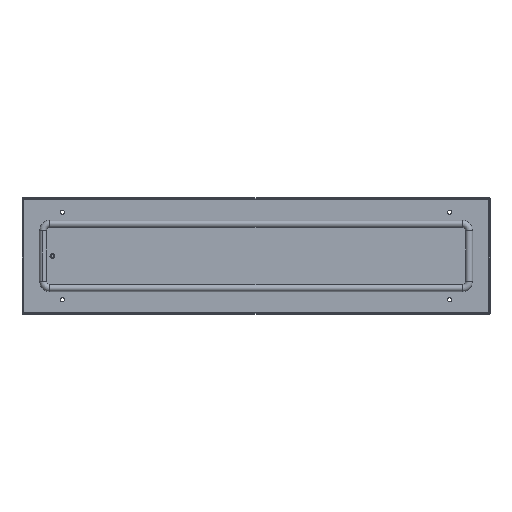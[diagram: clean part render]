
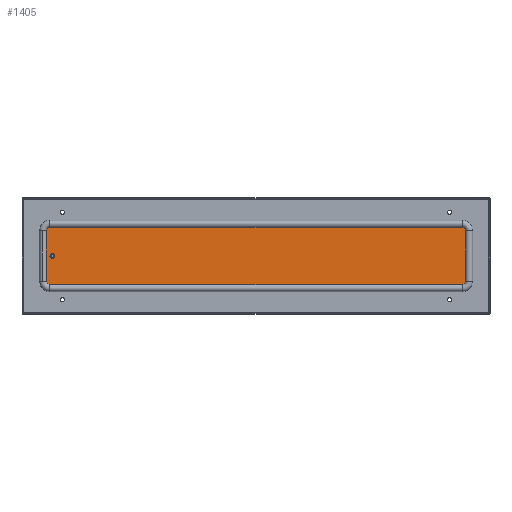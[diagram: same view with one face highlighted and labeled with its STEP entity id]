
A CAD part, top view. The second image highlights one B-rep face of the part: STEP entity #1405.
In plain terms, the highlighted planar face has unit normal (0, 0, 1).
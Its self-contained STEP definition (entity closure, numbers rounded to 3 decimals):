
#91 = VECTOR ( 'NONE', #627, 1000. ) ;
#95 = EDGE_CURVE ( 'NONE', #1627, #1391, #857, .T. ) ;
#112 = ORIENTED_EDGE ( 'NONE', *, *, #95, .F. ) ;
#115 = DIRECTION ( 'NONE',  ( 0., -1., 0. ) ) ;
#130 = DIRECTION ( 'NONE',  ( 0., 0., -1. ) ) ;
#138 = DIRECTION ( 'NONE',  ( -1., 0., 0. ) ) ;
#181 = CIRCLE ( 'NONE', #1341, 6. ) ;
#187 = FACE_OUTER_BOUND ( 'NONE', #898, .T. ) ;
#189 = CARTESIAN_POINT ( 'NONE',  ( 349.5, -48.5, -10.75 ) ) ;
#197 = VERTEX_POINT ( 'NONE', #457 ) ;
#214 = LINE ( 'NONE', #683, #1397 ) ;
#227 = CARTESIAN_POINT ( 'NONE',  ( 355.5, 42.5, -10.75 ) ) ;
#243 = AXIS2_PLACEMENT_3D ( 'NONE', #460, #1406, #575 ) ;
#260 = CARTESIAN_POINT ( 'NONE',  ( -349.5, 48.5, -10.75 ) ) ;
#263 = CARTESIAN_POINT ( 'NONE',  ( 355.5, 42.5, -10.75 ) ) ;
#277 = DIRECTION ( 'NONE',  ( 0., 0., 1. ) ) ;
#296 = DIRECTION ( 'NONE',  ( -1., 0., 0. ) ) ;
#328 = ORIENTED_EDGE ( 'NONE', *, *, #433, .F. ) ;
#388 = DIRECTION ( 'NONE',  ( 0., 1., 0. ) ) ;
#433 = EDGE_CURVE ( 'NONE', #1158, #1368, #181, .T. ) ;
#456 = CARTESIAN_POINT ( 'NONE',  ( -349.5, 0., -10.75 ) ) ;
#457 = CARTESIAN_POINT ( 'NONE',  ( -355.5, -42.5, -10.75 ) ) ;
#460 = CARTESIAN_POINT ( 'NONE',  ( -349.5, 42.5, -10.75 ) ) ;
#464 = EDGE_CURVE ( 'NONE', #1391, #1158, #1413, .T. ) ;
#467 = DIRECTION ( 'NONE',  ( 0., 0., 1. ) ) ;
#482 = VECTOR ( 'NONE', #388, 1000. ) ;
#498 = PLANE ( 'NONE',  #1263 ) ;
#575 = DIRECTION ( 'NONE',  ( -1., 0., 0. ) ) ;
#576 = ORIENTED_EDGE ( 'NONE', *, *, #1522, .F. ) ;
#578 = AXIS2_PLACEMENT_3D ( 'NONE', #1479, #277, #138 ) ;
#592 = CIRCLE ( 'NONE', #1496, 6. ) ;
#597 = EDGE_CURVE ( 'NONE', #1408, #1333, #1655, .T. ) ;
#611 = ORIENTED_EDGE ( 'NONE', *, *, #464, .F. ) ;
#627 = DIRECTION ( 'NONE',  ( 1., 0., 0. ) ) ;
#683 = CARTESIAN_POINT ( 'NONE',  ( 349.5, -48.5, -10.75 ) ) ;
#724 = EDGE_CURVE ( 'NONE', #1322, #1278, #214, .T. ) ;
#749 = CARTESIAN_POINT ( 'NONE',  ( -349.5, -42.5, -10.75 ) ) ;
#757 = EDGE_CURVE ( 'NONE', #1333, #1408, #1245, .T. ) ;
#857 = CIRCLE ( 'NONE', #243, 6. ) ;
#860 = CARTESIAN_POINT ( 'NONE',  ( -349.5, -48.5, -10.75 ) ) ;
#898 = EDGE_LOOP ( 'NONE', ( #112, #1366, #576, #1665, #1033, #998, #328, #611 ) ) ;
#945 = EDGE_CURVE ( 'NONE', #197, #1627, #1446, .T. ) ;
#998 = ORIENTED_EDGE ( 'NONE', *, *, #1652, .F. ) ;
#1020 = CARTESIAN_POINT ( 'NONE',  ( -345.5, 0., -10.75 ) ) ;
#1022 = DIRECTION ( 'NONE',  ( 0., 0., -1. ) ) ;
#1028 = AXIS2_PLACEMENT_3D ( 'NONE', #1063, #130, #1629 ) ;
#1032 = ORIENTED_EDGE ( 'NONE', *, *, #597, .F. ) ;
#1033 = ORIENTED_EDGE ( 'NONE', *, *, #1725, .F. ) ;
#1063 = CARTESIAN_POINT ( 'NONE',  ( 349.5, -42.5, -10.75 ) ) ;
#1073 = ORIENTED_EDGE ( 'NONE', *, *, #757, .F. ) ;
#1158 = VERTEX_POINT ( 'NONE', #1530 ) ;
#1159 = DIRECTION ( 'NONE',  ( -1., 0., 0. ) ) ;
#1176 = CARTESIAN_POINT ( 'NONE',  ( 0., 0., -10.75 ) ) ;
#1185 = EDGE_LOOP ( 'NONE', ( #1073, #1032 ) ) ;
#1240 = LINE ( 'NONE', #263, #1716 ) ;
#1245 = CIRCLE ( 'NONE', #1552, 4. ) ;
#1263 = AXIS2_PLACEMENT_3D ( 'NONE', #1176, #1022, #1159 ) ;
#1275 = DIRECTION ( 'NONE',  ( -1., 0., 0. ) ) ;
#1278 = VERTEX_POINT ( 'NONE', #860 ) ;
#1286 = DIRECTION ( 'NONE',  ( 0., 0., -1. ) ) ;
#1289 = FACE_BOUND ( 'NONE', #1185, .T. ) ;
#1322 = VERTEX_POINT ( 'NONE', #189 ) ;
#1333 = VERTEX_POINT ( 'NONE', #456 ) ;
#1338 = DIRECTION ( 'NONE',  ( 0., 0., -1. ) ) ;
#1341 = AXIS2_PLACEMENT_3D ( 'NONE', #1743, #1338, #1729 ) ;
#1366 = ORIENTED_EDGE ( 'NONE', *, *, #945, .F. ) ;
#1368 = VERTEX_POINT ( 'NONE', #227 ) ;
#1369 = VERTEX_POINT ( 'NONE', #1683 ) ;
#1391 = VERTEX_POINT ( 'NONE', #1721 ) ;
#1397 = VECTOR ( 'NONE', #296, 1000. ) ;
#1405 = ADVANCED_FACE ( 'NONE', ( #1289, #187 ), #498, .F. ) ;
#1406 = DIRECTION ( 'NONE',  ( 0., 0., -1. ) ) ;
#1408 = VERTEX_POINT ( 'NONE', #1460 ) ;
#1413 = LINE ( 'NONE', #260, #91 ) ;
#1446 = LINE ( 'NONE', #1451, #482 ) ;
#1450 = DIRECTION ( 'NONE',  ( 0., -1., 0. ) ) ;
#1451 = CARTESIAN_POINT ( 'NONE',  ( -355.5, -42.5, -10.75 ) ) ;
#1460 = CARTESIAN_POINT ( 'NONE',  ( -341.5, 0., -10.75 ) ) ;
#1479 = CARTESIAN_POINT ( 'NONE',  ( -345.5, 0., -10.75 ) ) ;
#1496 = AXIS2_PLACEMENT_3D ( 'NONE', #749, #1286, #1450 ) ;
#1522 = EDGE_CURVE ( 'NONE', #1278, #197, #592, .T. ) ;
#1530 = CARTESIAN_POINT ( 'NONE',  ( 349.5, 48.5, -10.75 ) ) ;
#1552 = AXIS2_PLACEMENT_3D ( 'NONE', #1020, #467, #1275 ) ;
#1569 = CARTESIAN_POINT ( 'NONE',  ( -355.5, 42.5, -10.75 ) ) ;
#1627 = VERTEX_POINT ( 'NONE', #1569 ) ;
#1629 = DIRECTION ( 'NONE',  ( 1., 0., 0. ) ) ;
#1652 = EDGE_CURVE ( 'NONE', #1368, #1369, #1240, .T. ) ;
#1655 = CIRCLE ( 'NONE', #578, 4. ) ;
#1665 = ORIENTED_EDGE ( 'NONE', *, *, #724, .F. ) ;
#1683 = CARTESIAN_POINT ( 'NONE',  ( 355.5, -42.5, -10.75 ) ) ;
#1716 = VECTOR ( 'NONE', #115, 1000. ) ;
#1721 = CARTESIAN_POINT ( 'NONE',  ( -349.5, 48.5, -10.75 ) ) ;
#1725 = EDGE_CURVE ( 'NONE', #1369, #1322, #1738, .T. ) ;
#1729 = DIRECTION ( 'NONE',  ( 0., 1., 0. ) ) ;
#1738 = CIRCLE ( 'NONE', #1028, 6. ) ;
#1743 = CARTESIAN_POINT ( 'NONE',  ( 349.5, 42.5, -10.75 ) ) ;
